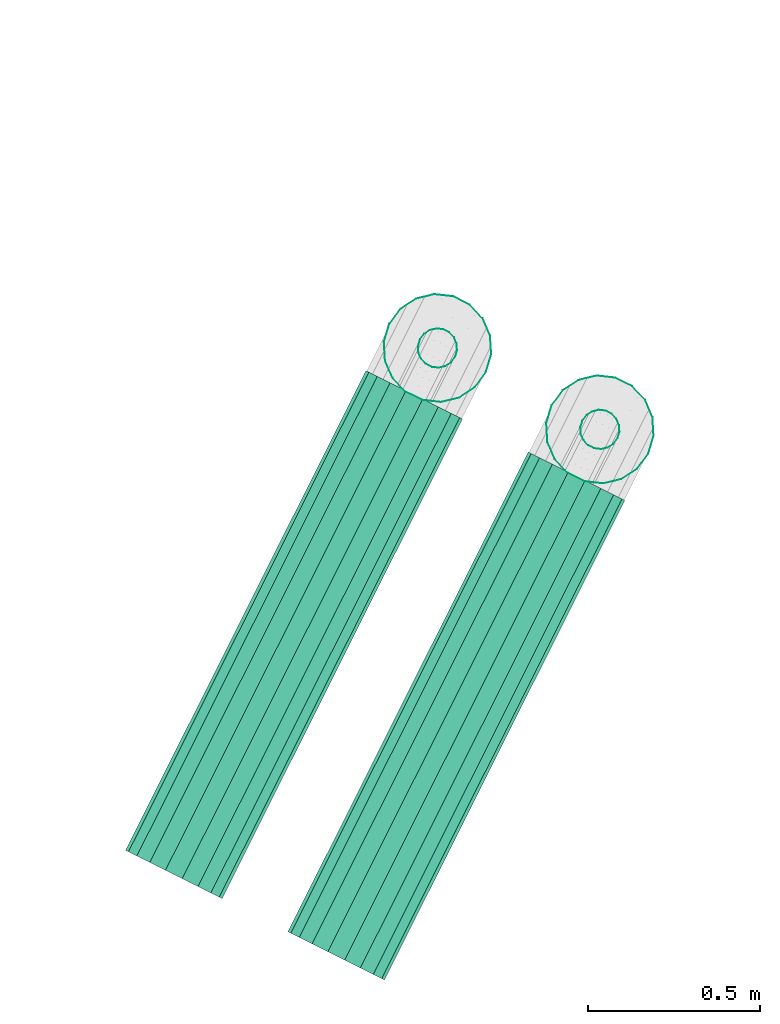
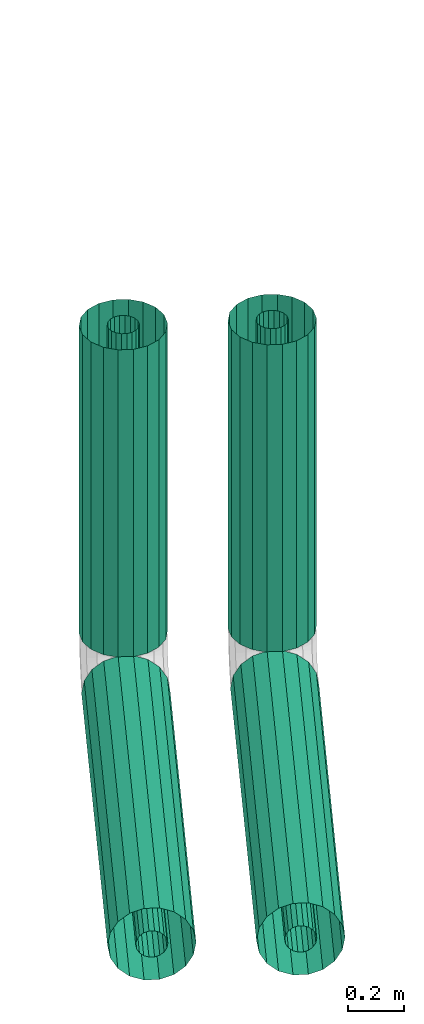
# One storey, part 1 of 11: 4 flow segments.
"""IFC2X3 building model written with IfcOpenShell, lengths in metres."""

from ifc_helpers import new_model, si_unit, derived_unit, direction, frame, origin, place, context, subcontext, project, spatial, face_set, surface_model, source, transform, mapped, material, type_object, type_shapes, element, save


model = new_model("IFC2X3")

# Units and contexts
model_context = context("Model", 3, precision=5.2338327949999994e-05, world=origin(), true_north=direction((0.0, 1.0)))
body_context = subcontext(model_context, "Body", "Model", "MODEL_VIEW")
ifc_project = project(units=[si_unit("LENGTHUNIT", "METRE"), si_unit("AREAUNIT", "SQUARE_METRE"), si_unit("VOLUMEUNIT", "CUBIC_METRE"), si_unit("MASSUNIT", "GRAM", prefix="KILO"), si_unit("PLANEANGLEUNIT", "RADIAN"), derived_unit("THERMALTRANSMITTANCEUNIT", [(si_unit("MASSUNIT", "GRAM", prefix="KILO"), 1), (si_unit("THERMODYNAMICTEMPERATUREUNIT", "KELVIN"), -1), (si_unit("TIMEUNIT", "SECOND"), -3)])], contexts=[model_context])

# Site, building, storey
site_placement = place(None, frame((0.0, 0.0, 0.0), z_axis=(0.0, 0.0, 1.0), x_axis=(0.8939966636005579, -0.4480736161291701, 0.0)))
site = spatial("IfcSite", under=ifc_project, at=site_placement, Name="Default", CompositionType="ELEMENT")
building_placement = place(site_placement, origin())
building = spatial("IfcBuilding", under=site, at=building_placement, CompositionType="ELEMENT")
storey_placement = place(building_placement, frame((0.0, 0.0, -2.7499999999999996)))
storey = spatial("IfcBuildingStorey", under=building, at=storey_placement, Name="1. Untergeschoss", CompositionType="ELEMENT", Elevation=-2.7499999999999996)

# Flow segments
ifc_material_1 = material(Name="IfcSurfaceStyle #9317")
distribution_element_type_1 = type_object("IfcDistributionElementType", Name="Stahlrohr nach DIN 2448 304776:Stahlrohr nach DIN 2448 304776", material=ifc_material_1)
shared_shape_1 = source(origin(), body_context, "Body", "SurfaceModel", [
    surface_model("IfcFaceBasedSurfaceModel", [(25.038549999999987, 0.612299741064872, -0.37999999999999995), (25.041996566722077, 0.5927532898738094, -0.37999999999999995), (25.041996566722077, 0.5927532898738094, 0.9494106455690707), (25.038549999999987, 0.6122997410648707, 0.9494106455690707), (25.051920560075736, 0.5755644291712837, -0.37999999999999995), (25.051920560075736, 0.5755644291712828, 0.9494106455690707), (25.067124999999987, 0.5628063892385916, -0.37999999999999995), (25.067124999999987, 0.5628063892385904, 0.9494106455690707), (25.085776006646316, 0.5560179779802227, -0.37999999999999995), (25.08577600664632, 0.5560179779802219, 0.9494106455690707), (25.105623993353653, 0.5560179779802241, -0.37999999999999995), (25.105623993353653, 0.5560179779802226, 0.9494106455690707), (25.12427499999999, 0.5628063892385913, -0.37999999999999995), (25.124274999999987, 0.5628063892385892, 0.9494106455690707), (25.139479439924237, 0.5755644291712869, -0.37999999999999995), (25.13947943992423, 0.5755644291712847, 0.9494106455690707), (25.1494034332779, 0.5927532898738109, -0.37999999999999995), (25.1494034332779, 0.5927532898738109, 0.9494106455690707), (25.152849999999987, 0.6122997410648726, -0.37999999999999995), (25.152849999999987, 0.6122997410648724, 0.9494106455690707), (25.1494034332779, 0.631846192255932, -0.37999999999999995), (25.1494034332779, 0.6318461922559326, 0.9494106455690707), (25.13947943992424, 0.6490350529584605, -0.37999999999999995), (25.13947943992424, 0.6490350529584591, 0.9494106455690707), (25.12427499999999, 0.6617930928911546, -0.37999999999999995), (25.124274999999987, 0.6617930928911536, 0.9494106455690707), (25.105623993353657, 0.6685815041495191, -0.37999999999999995), (25.105623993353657, 0.6685815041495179, 0.9494106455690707), (25.08577600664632, 0.6685815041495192, -0.37999999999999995), (25.085776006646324, 0.668581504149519, 0.9494106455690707), (25.06712499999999, 0.6617930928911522, -0.37999999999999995), (25.06712499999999, 0.661793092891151, 0.9494106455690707), (25.051920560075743, 0.6490350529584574, -0.37999999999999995), (25.051920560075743, 0.6490350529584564, 0.9494106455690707), (25.041996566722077, 0.631846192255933, -0.37999999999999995), (25.04199656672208, 0.6318461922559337, 0.9494106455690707), (24.93854999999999, 0.6122997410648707, -0.37999999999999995), (24.94802730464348, 0.5585512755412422, -0.37999999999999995), (24.94802730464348, 0.5585512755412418, 0.9494106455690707), (24.93854999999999, 0.6122997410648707, 0.9494106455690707), (24.975316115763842, 0.5112856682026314, -0.37999999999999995), (24.97531611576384, 0.5112856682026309, 0.9494106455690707), (25.017124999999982, 0.4762038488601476, -0.37999999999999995), (25.017124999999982, 0.4762038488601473, 0.9494106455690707), (25.06841118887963, 0.45753720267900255, -0.37999999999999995), (25.06841118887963, 0.45753720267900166, 0.9494106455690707), (25.122988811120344, 0.4575372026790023, -0.37999999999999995), (25.12298881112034, 0.45753720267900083, 0.9494106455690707), (25.174274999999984, 0.47620384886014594, -0.37999999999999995), (25.174274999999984, 0.47620384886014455, 0.9494106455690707), (25.216083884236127, 0.5112856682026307, -0.37999999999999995), (25.216083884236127, 0.5112856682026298, 0.9494106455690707), (25.243372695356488, 0.5585512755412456, -0.37999999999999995), (25.243372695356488, 0.5585512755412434, 0.9494106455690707), (25.25284999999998, 0.6122997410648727, -0.37999999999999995), (25.25284999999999, 0.6122997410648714, 0.9494106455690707), (25.243372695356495, 0.6660482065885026, -0.37999999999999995), (25.2433726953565, 0.6660482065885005, 0.9494106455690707), (25.216083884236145, 0.7133138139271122, -0.37999999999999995), (25.216083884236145, 0.7133138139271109, 0.9494106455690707), (25.174274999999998, 0.7483956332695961, -0.37999999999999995), (25.174274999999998, 0.7483956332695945, 0.9494106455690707), (25.122988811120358, 0.7670622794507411, -0.37999999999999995), (25.122988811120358, 0.7670622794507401, 0.9494106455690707), (25.068411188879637, 0.7670622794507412, -0.37999999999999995), (25.068411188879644, 0.7670622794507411, 0.9494106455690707), (25.017124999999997, 0.7483956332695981, -0.37999999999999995), (25.017124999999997, 0.7483956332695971, 0.9494106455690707), (24.97531611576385, 0.7133138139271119, -0.37999999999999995), (24.975316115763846, 0.7133138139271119, 0.9494106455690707), (24.94802730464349, 0.6660482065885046, -0.37999999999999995), (24.94802730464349, 0.6660482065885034, 0.9494106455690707)], [face_set([[[0, 1, 2, 3]], [[1, 4, 5, 2]], [[4, 6, 7, 5]], [[6, 8, 9, 7]], [[8, 10, 11, 9]], [[10, 12, 13, 11]], [[12, 14, 15, 13]], [[14, 16, 17, 15]], [[16, 18, 19, 17]], [[18, 20, 21, 19]], [[20, 22, 23, 21]], [[22, 24, 25, 23]], [[24, 26, 27, 25]], [[26, 28, 29, 27]], [[28, 30, 31, 29]], [[30, 32, 33, 31]], [[32, 34, 35, 33]], [[34, 0, 3, 35]], [[36, 37, 38, 39]], [[37, 40, 41, 38]], [[40, 42, 43, 41]], [[42, 44, 45, 43]], [[44, 46, 47, 45]], [[46, 48, 49, 47]], [[48, 50, 51, 49]], [[50, 52, 53, 51]], [[52, 54, 55, 53]], [[54, 56, 57, 55]], [[56, 58, 59, 57]], [[58, 60, 61, 59]], [[60, 62, 63, 61]], [[62, 64, 65, 63]], [[64, 66, 67, 65]], [[66, 68, 69, 67]], [[68, 70, 71, 69]], [[70, 36, 39, 71]]])]),
])
type_shapes(distribution_element_type_1, [shared_shape_1])
flow_segment_1_placement = place(storey_placement, frame((0.0, 0.0, 2.7499999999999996)))
element("IfcFlowSegment", 1, at=flow_segment_1_placement, inside=storey, type_object=distribution_element_type_1, material=ifc_material_1, Name="Stahlrohr nach DIN 2448", ObjectType="Stahlrohr nach DIN 2448", context=body_context, shape_type="MappedRepresentation", body=[
    mapped(shared_shape_1, transform((0.0, 0.0, 0.0), scale=1.0)),
])
ifc_material_2 = material(Name="IfcSurfaceStyle #1741")
distribution_element_type_2 = type_object("IfcDistributionElementType", Name="Stahlrohr nach DIN 2448 305338:Stahlrohr nach DIN 2448 305338", material=ifc_material_2)
shared_shape_2 = source(origin(), body_context, "Body", "SurfaceModel", [
    surface_model("IfcFaceBasedSurfaceModel", [(25.567149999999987, 0.6122997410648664, -0.37999999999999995), (25.57059656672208, 0.592753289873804, -0.37999999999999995), (25.57059656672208, 0.592753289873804, 0.9494106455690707), (25.567149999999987, 0.6122997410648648, 0.9494106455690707), (25.580520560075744, 0.5755644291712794, -0.37999999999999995), (25.580520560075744, 0.5755644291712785, 0.9494106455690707), (25.595724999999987, 0.5628063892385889, -0.37999999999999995), (25.595724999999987, 0.5628063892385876, 0.9494106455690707), (25.61437600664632, 0.5560179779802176, -0.37999999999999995), (25.614376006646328, 0.5560179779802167, 0.9494106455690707), (25.634223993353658, 0.5560179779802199, -0.37999999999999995), (25.634223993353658, 0.5560179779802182, 0.9494106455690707), (25.652874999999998, 0.562806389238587, -0.37999999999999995), (25.65287499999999, 0.5628063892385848, 0.9494106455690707), (25.66807943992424, 0.5755644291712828, -0.37999999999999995), (25.668079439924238, 0.5755644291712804, 0.9494106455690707), (25.678003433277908, 0.5927532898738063, -0.37999999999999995), (25.678003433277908, 0.5927532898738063, 0.9494106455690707), (25.68144999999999, 0.612299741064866, -0.37999999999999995), (25.68144999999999, 0.6122997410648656, 0.9494106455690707), (25.678003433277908, 0.6318461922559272, -0.37999999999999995), (25.678003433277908, 0.631846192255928, 0.9494106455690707), (25.668079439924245, 0.6490350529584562, -0.37999999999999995), (25.668079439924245, 0.6490350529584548, 0.9494106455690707), (25.652874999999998, 0.6617930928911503, -0.37999999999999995), (25.65287499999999, 0.6617930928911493, 0.9494106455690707), (25.634223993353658, 0.6685815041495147, -0.37999999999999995), (25.63422399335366, 0.6685815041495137, 0.9494106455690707), (25.614376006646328, 0.6685815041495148, -0.37999999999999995), (25.61437600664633, 0.6685815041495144, 0.9494106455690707), (25.595724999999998, 0.6617930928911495, -0.37999999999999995), (25.595724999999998, 0.6617930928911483, 0.9494106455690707), (25.580520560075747, 0.6490350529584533, -0.37999999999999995), (25.580520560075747, 0.6490350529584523, 0.9494106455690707), (25.57059656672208, 0.6318461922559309, -0.37999999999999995), (25.57059656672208, 0.6318461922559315, 0.9494106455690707), (25.467149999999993, 0.6122997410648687, -0.37999999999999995), (25.476627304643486, 0.55855127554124, -0.37999999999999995), (25.476627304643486, 0.5585512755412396, 0.9494106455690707), (25.467149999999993, 0.6122997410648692, 0.9494106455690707), (25.503916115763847, 0.5112856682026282, -0.37999999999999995), (25.503916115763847, 0.5112856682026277, 0.9494106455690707), (25.545724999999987, 0.47620384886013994, -0.37999999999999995), (25.545724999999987, 0.4762038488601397, 0.9494106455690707), (25.59701118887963, 0.4575372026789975, -0.37999999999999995), (25.59701118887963, 0.45753720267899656, 0.9494106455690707), (25.651588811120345, 0.45753720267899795, -0.37999999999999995), (25.651588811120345, 0.4575372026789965, 0.9494106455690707), (25.702874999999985, 0.4762038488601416, -0.37999999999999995), (25.702874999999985, 0.4762038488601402, 0.9494106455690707), (25.74468388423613, 0.5112856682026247, -0.37999999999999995), (25.74468388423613, 0.5112856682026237, 0.9494106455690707), (25.771972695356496, 0.558551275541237, -0.37999999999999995), (25.771972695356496, 0.5585512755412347, 0.9494106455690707), (25.781449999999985, 0.6122997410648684, -0.37999999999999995), (25.781449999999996, 0.6122997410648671, 0.9494106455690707), (25.7719726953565, 0.6660482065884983, -0.37999999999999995), (25.771972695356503, 0.6660482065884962, 0.9494106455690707), (25.744683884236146, 0.71331381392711, -0.37999999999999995), (25.744683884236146, 0.7133138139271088, 0.9494106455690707), (25.702875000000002, 0.7483956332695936, -0.37999999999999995), (25.702875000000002, 0.7483956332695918, 0.9494106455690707), (25.651588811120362, 0.7670622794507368, -0.37999999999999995), (25.651588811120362, 0.7670622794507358, 0.9494106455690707), (25.597011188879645, 0.7670622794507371, -0.37999999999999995), (25.597011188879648, 0.7670622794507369, 0.9494106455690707), (25.545725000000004, 0.748395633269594, -0.37999999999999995), (25.545725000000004, 0.748395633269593, 0.9494106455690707), (25.50391611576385, 0.7133138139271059, -0.37999999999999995), (25.503916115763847, 0.7133138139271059, 0.9494106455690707), (25.47662730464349, 0.6660482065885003, -0.37999999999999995), (25.47662730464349, 0.6660482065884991, 0.9494106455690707)], [face_set([[[0, 1, 2, 3]], [[1, 4, 5, 2]], [[4, 6, 7, 5]], [[6, 8, 9, 7]], [[8, 10, 11, 9]], [[10, 12, 13, 11]], [[12, 14, 15, 13]], [[14, 16, 17, 15]], [[16, 18, 19, 17]], [[18, 20, 21, 19]], [[20, 22, 23, 21]], [[22, 24, 25, 23]], [[24, 26, 27, 25]], [[26, 28, 29, 27]], [[28, 30, 31, 29]], [[30, 32, 33, 31]], [[32, 34, 35, 33]], [[34, 0, 3, 35]], [[36, 37, 38, 39]], [[37, 40, 41, 38]], [[40, 42, 43, 41]], [[42, 44, 45, 43]], [[44, 46, 47, 45]], [[46, 48, 49, 47]], [[48, 50, 51, 49]], [[50, 52, 53, 51]], [[52, 54, 55, 53]], [[54, 56, 57, 55]], [[56, 58, 59, 57]], [[58, 60, 61, 59]], [[60, 62, 63, 61]], [[62, 64, 65, 63]], [[64, 66, 67, 65]], [[66, 68, 69, 67]], [[68, 70, 71, 69]], [[70, 36, 39, 71]]])]),
])
type_shapes(distribution_element_type_2, [shared_shape_2])
flow_segment_2_placement = place(storey_placement, frame((0.0, 0.0, 2.7499999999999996)))
element("IfcFlowSegment", 2, at=flow_segment_2_placement, inside=storey, type_object=distribution_element_type_2, material=ifc_material_2, Name="Stahlrohr nach DIN 2448", ObjectType="Stahlrohr nach DIN 2448", context=body_context, shape_type="MappedRepresentation", body=[
    mapped(shared_shape_2, transform((0.0, 0.0, 0.0), scale=1.0)),
])
distribution_element_type_3 = type_object("IfcDistributionElementType", Name="Stahlrohr nach DIN 2448 321279:Stahlrohr nach DIN 2448 321279", material=ifc_material_2)
shared_shape_3 = source(origin(), body_context, "Body", "SurfaceModel", [
    surface_model("IfcFaceBasedSurfaceModel", [(25.567149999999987, 0.4602997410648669, -0.5319999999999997), (25.57059656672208, 0.4602997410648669, -0.551546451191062), (25.57059656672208, -1.1008952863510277, -0.5515464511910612), (25.567149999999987, -1.1008952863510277, -0.5320000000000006), (25.580520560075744, 0.4602997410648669, -0.5687353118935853), (25.580520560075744, -1.1008952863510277, -0.5687353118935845), (25.595724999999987, 0.4602997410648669, -0.581493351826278), (25.595724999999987, -1.1008952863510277, -0.5814933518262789), (25.61437600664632, 0.4602997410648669, -0.5882817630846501), (25.61437600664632, -1.1008952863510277, -0.5882817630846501), (25.634223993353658, 0.4602997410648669, -0.5882817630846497), (25.634223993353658, -1.1008952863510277, -0.5882817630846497), (25.65287499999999, 0.4602997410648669, -0.5814933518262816), (25.65287499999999, -1.1008952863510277, -0.581493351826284), (25.66807943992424, 0.4602997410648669, -0.5687353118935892), (25.66807943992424, -1.1008952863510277, -0.5687353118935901), (25.67800343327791, 0.4602997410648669, -0.5515464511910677), (25.67800343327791, -1.1008952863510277, -0.5515464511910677), (25.68144999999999, 0.4602997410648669, -0.5320000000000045), (25.68144999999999, -1.1008952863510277, -0.5320000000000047), (25.67800343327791, 0.4602997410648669, -0.5124535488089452), (25.67800343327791, -1.1008952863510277, -0.5124535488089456), (25.668079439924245, 0.4602997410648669, -0.49526468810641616), (25.668079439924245, -1.1008952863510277, -0.49526468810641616), (25.652875, 0.4602997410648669, -0.4825066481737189), (25.652874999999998, -1.1008952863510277, -0.48250664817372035), (25.634223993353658, 0.4602997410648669, -0.4757182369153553), (25.63422399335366, -1.1008952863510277, -0.47571823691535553), (25.614376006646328, 0.4602997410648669, -0.4757182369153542), (25.61437600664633, -1.1008952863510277, -0.4757182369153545), (25.595724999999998, 0.4602997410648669, -0.48250664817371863), (25.595724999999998, -1.1008952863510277, -0.4825066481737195), (25.580520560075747, 0.4602997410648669, -0.4952646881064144), (25.580520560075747, -1.1008952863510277, -0.4952646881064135), (25.57059656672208, 0.4602997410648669, -0.5124535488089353), (25.57059656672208, -1.1008952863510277, -0.5124535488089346), (25.467149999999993, 0.4602997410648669, -0.5319999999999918), (25.476627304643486, 0.4602997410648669, -0.5857484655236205), (25.476627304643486, -1.1008952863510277, -0.5857484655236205), (25.467149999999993, -1.1008952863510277, -0.531999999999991), (25.503916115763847, 0.4602997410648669, -0.6330140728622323), (25.503916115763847, -1.1008952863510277, -0.6330140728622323), (25.545724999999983, 0.4602997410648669, -0.6680958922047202), (25.545724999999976, -1.1008952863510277, -0.6680958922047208), (25.59701118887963, 0.4602997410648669, -0.6867625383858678), (25.597011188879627, -1.1008952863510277, -0.6867625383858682), (25.651588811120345, 0.4602997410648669, -0.6867625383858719), (25.651588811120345, -1.1008952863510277, -0.6867625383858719), (25.702874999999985, 0.4602997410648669, -0.6680958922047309), (25.702874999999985, -1.1008952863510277, -0.6680958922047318), (25.74468388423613, 0.4602997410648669, -0.6330140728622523), (25.744683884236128, -1.1008952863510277, -0.6330140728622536), (25.771972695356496, 0.4602997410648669, -0.5857484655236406), (25.771972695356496, -1.1008952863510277, -0.5857484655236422), (25.781449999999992, 0.4602997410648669, -0.53200000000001), (25.781449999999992, -1.1008952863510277, -0.5320000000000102), (25.7719726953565, 0.4602997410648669, -0.47825153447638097), (25.771972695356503, -1.1008952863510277, -0.4782515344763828), (25.744683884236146, 0.4602997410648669, -0.43098592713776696), (25.744683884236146, -1.1008952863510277, -0.43098592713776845), (25.702875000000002, 0.4602997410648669, -0.39590410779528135), (25.702875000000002, -1.1008952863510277, -0.3959041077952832), (25.651588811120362, 0.4602997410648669, -0.37723746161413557), (25.651588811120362, -1.1008952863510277, -0.3772374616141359), (25.597011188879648, 0.4602997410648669, -0.37723746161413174), (25.597011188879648, -1.1008952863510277, -0.3772374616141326), (25.545725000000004, 0.4602997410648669, -0.3959041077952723), (25.545725, -1.1008952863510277, -0.3959041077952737), (25.503916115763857, 0.4602997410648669, -0.43098592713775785), (25.503916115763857, -1.1008952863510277, -0.43098592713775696), (25.47662730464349, 0.4602997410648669, -0.47825153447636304), (25.47662730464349, -1.1008952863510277, -0.4782515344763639)], [face_set([[[0, 1, 2, 3]], [[1, 4, 5, 2]], [[4, 6, 7, 5]], [[6, 8, 9, 7]], [[8, 10, 11, 9]], [[10, 12, 13, 11]], [[12, 14, 15, 13]], [[14, 16, 17, 15]], [[16, 18, 19, 17]], [[18, 20, 21, 19]], [[20, 22, 23, 21]], [[22, 24, 25, 23]], [[24, 26, 27, 25]], [[26, 28, 29, 27]], [[28, 30, 31, 29]], [[30, 32, 33, 31]], [[32, 34, 35, 33]], [[34, 0, 3, 35]], [[36, 37, 38, 39]], [[37, 40, 41, 38]], [[40, 42, 43, 41]], [[42, 44, 45, 43]], [[44, 46, 47, 45]], [[46, 48, 49, 47]], [[48, 50, 51, 49]], [[50, 52, 53, 51]], [[52, 54, 55, 53]], [[54, 56, 57, 55]], [[56, 58, 59, 57]], [[58, 60, 61, 59]], [[60, 62, 63, 61]], [[62, 64, 65, 63]], [[64, 66, 67, 65]], [[66, 68, 69, 67]], [[68, 70, 71, 69]], [[70, 36, 39, 71]]])]),
])
type_shapes(distribution_element_type_3, [shared_shape_3])
flow_segment_3_placement = place(storey_placement, frame((0.0, 0.0, 2.7499999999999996)))
element("IfcFlowSegment", 3, at=flow_segment_3_placement, inside=storey, type_object=distribution_element_type_3, material=ifc_material_2, Name="Stahlrohr nach DIN 2448", ObjectType="Stahlrohr nach DIN 2448", context=body_context, shape_type="MappedRepresentation", body=[
    mapped(shared_shape_3, transform((0.0, 0.0, 0.0), scale=1.0)),
])
distribution_element_type_4 = type_object("IfcDistributionElementType", Name="Stahlrohr nach DIN 2448 321560:Stahlrohr nach DIN 2448 321560", material=ifc_material_1)
shared_shape_4 = source(origin(), body_context, "Body", "SurfaceModel", [
    surface_model("IfcFaceBasedSurfaceModel", [(25.038549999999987, 0.4602997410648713, -0.5319999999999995), (25.041996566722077, 0.4602997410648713, -0.5515464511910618), (25.041996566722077, -1.1008952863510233, -0.551546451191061), (25.038549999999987, -1.1008952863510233, -0.5319999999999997), (25.051920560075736, 0.4602997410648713, -0.5687353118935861), (25.051920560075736, -1.1008952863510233, -0.5687353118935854), (25.067124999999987, 0.4602997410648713, -0.5814933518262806), (25.067124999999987, -1.1008952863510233, -0.5814933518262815), (25.085776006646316, 0.4602997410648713, -0.5882817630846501), (25.085776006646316, -1.1008952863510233, -0.5882817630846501), (25.105623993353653, 0.4602997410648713, -0.5882817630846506), (25.105623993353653, -1.1008952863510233, -0.5882817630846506), (25.124274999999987, 0.4602997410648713, -0.581493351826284), (25.124274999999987, -1.1008952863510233, -0.5814933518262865), (25.139479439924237, 0.4602997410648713, -0.5687353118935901), (25.139479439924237, -1.1008952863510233, -0.568735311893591), (25.149403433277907, 0.4602997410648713, -0.5515464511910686), (25.149403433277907, -1.1008952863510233, -0.5515464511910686), (25.15284999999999, 0.4602997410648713, -0.5320000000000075), (25.15284999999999, -1.1008952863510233, -0.5320000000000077), (25.149403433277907, 0.4602997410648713, -0.5124535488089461), (25.149403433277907, -1.1008952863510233, -0.5124535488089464), (25.139479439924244, 0.4602997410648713, -0.49526468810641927), (25.139479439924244, -1.1008952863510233, -0.49526468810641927), (25.124274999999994, 0.4602997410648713, -0.4825066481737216), (25.12427499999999, -1.1008952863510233, -0.4825066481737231), (25.105623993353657, 0.4602997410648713, -0.47571823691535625), (25.105623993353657, -1.1008952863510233, -0.4757182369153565), (25.08577600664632, 0.4602997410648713, -0.4757182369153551), (25.085776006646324, -1.1008952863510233, -0.47571823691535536), (25.06712499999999, 0.4602997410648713, -0.4825066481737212), (25.06712499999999, -1.1008952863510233, -0.48250664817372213), (25.051920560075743, 0.4602997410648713, -0.49526468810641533), (25.051920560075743, -1.1008952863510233, -0.49526468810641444), (25.041996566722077, 0.4602997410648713, -0.5124535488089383), (25.04199656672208, -1.1008952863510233, -0.5124535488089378), (24.93854999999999, 0.4602997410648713, -0.5319999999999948), (24.94802730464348, 0.4602997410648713, -0.5857484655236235), (24.94802730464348, -1.1008952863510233, -0.5857484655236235), (24.938549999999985, -1.1008952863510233, -0.5319999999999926), (24.975316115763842, 0.4602997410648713, -0.6330140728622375), (24.975316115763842, -1.1008952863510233, -0.6330140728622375), (25.017124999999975, 0.4602997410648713, -0.668095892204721), (25.01712499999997, -1.1008952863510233, -0.6680958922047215), (25.068411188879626, 0.4602997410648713, -0.6867625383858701), (25.068411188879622, -1.1008952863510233, -0.6867625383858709), (25.122988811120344, 0.4602997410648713, -0.6867625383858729), (25.122988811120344, -1.1008952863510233, -0.6867625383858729), (25.174274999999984, 0.4602997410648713, -0.6680958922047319), (25.174274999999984, -1.1008952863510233, -0.6680958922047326), (25.216083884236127, 0.4602997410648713, -0.6330140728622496), (25.216083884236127, -1.1008952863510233, -0.6330140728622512), (25.243372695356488, 0.4602997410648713, -0.5857484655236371), (25.243372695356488, -1.1008952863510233, -0.5857484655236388), (25.252849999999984, 0.4602997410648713, -0.5320000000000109), (25.252849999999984, -1.1008952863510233, -0.5320000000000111), (25.243372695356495, 0.4602997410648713, -0.4782515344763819), (25.2433726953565, -1.1008952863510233, -0.4782515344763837), (25.216083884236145, 0.4602997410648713, -0.43098592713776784), (25.216083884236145, -1.1008952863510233, -0.4309859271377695), (25.174274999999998, 0.4602997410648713, -0.3959041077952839), (25.174274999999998, -1.1008952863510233, -0.39590410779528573), (25.122988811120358, 0.4602997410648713, -0.37723746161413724), (25.12298881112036, -1.1008952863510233, -0.37723746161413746), (25.068411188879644, 0.4602997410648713, -0.3772374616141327), (25.068411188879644, -1.1008952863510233, -0.3772374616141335), (25.017124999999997, 0.4602997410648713, -0.3959041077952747), (25.017124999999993, -1.1008952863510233, -0.39590410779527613), (24.97531611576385, 0.4602997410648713, -0.43098592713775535), (24.97531611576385, -1.1008952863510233, -0.43098592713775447), (24.948027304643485, 0.4602997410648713, -0.4782515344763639), (24.948027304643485, -1.1008952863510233, -0.47825153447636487)], [face_set([[[0, 1, 2, 3]], [[1, 4, 5, 2]], [[4, 6, 7, 5]], [[6, 8, 9, 7]], [[8, 10, 11, 9]], [[10, 12, 13, 11]], [[12, 14, 15, 13]], [[14, 16, 17, 15]], [[16, 18, 19, 17]], [[18, 20, 21, 19]], [[20, 22, 23, 21]], [[22, 24, 25, 23]], [[24, 26, 27, 25]], [[26, 28, 29, 27]], [[28, 30, 31, 29]], [[30, 32, 33, 31]], [[32, 34, 35, 33]], [[34, 0, 3, 35]], [[36, 37, 38, 39]], [[37, 40, 41, 38]], [[40, 42, 43, 41]], [[42, 44, 45, 43]], [[44, 46, 47, 45]], [[46, 48, 49, 47]], [[48, 50, 51, 49]], [[50, 52, 53, 51]], [[52, 54, 55, 53]], [[54, 56, 57, 55]], [[56, 58, 59, 57]], [[58, 60, 61, 59]], [[60, 62, 63, 61]], [[62, 64, 65, 63]], [[64, 66, 67, 65]], [[66, 68, 69, 67]], [[68, 70, 71, 69]], [[70, 36, 39, 71]]])]),
])
type_shapes(distribution_element_type_4, [shared_shape_4])
flow_segment_4_placement = place(storey_placement, frame((0.0, 0.0, 2.7499999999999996)))
element("IfcFlowSegment", 4, at=flow_segment_4_placement, inside=storey, type_object=distribution_element_type_4, material=ifc_material_1, Name="Stahlrohr nach DIN 2448", ObjectType="Stahlrohr nach DIN 2448", context=body_context, shape_type="MappedRepresentation", body=[
    mapped(shared_shape_4, transform((0.0, 0.0, 0.0), scale=1.0)),
])

save(model, "model.ifc")
